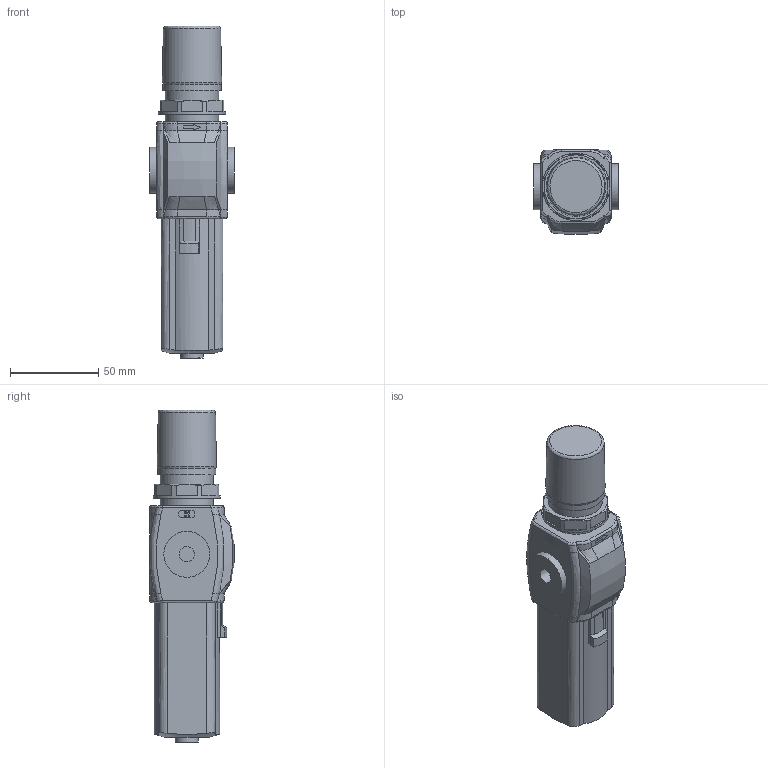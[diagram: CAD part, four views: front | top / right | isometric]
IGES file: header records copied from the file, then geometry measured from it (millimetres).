
Global section: file name: N171AEM##S; native system: Autodesk Inventor 2014; preprocessor: unknown; author: M. Valota; organization: Pneumax S.p.A.; date: 20140522.102951; units: millimetre
Bounding box: 48 x 47.82 x 187.6 mm (x, y, z)
Volume: 231881 mm3; surface area: 34790.9 mm2
Topology: 2 solids, 3 shells, 342 faces, 839 edges, 539 vertices
Faces by surface type: bspline 342
